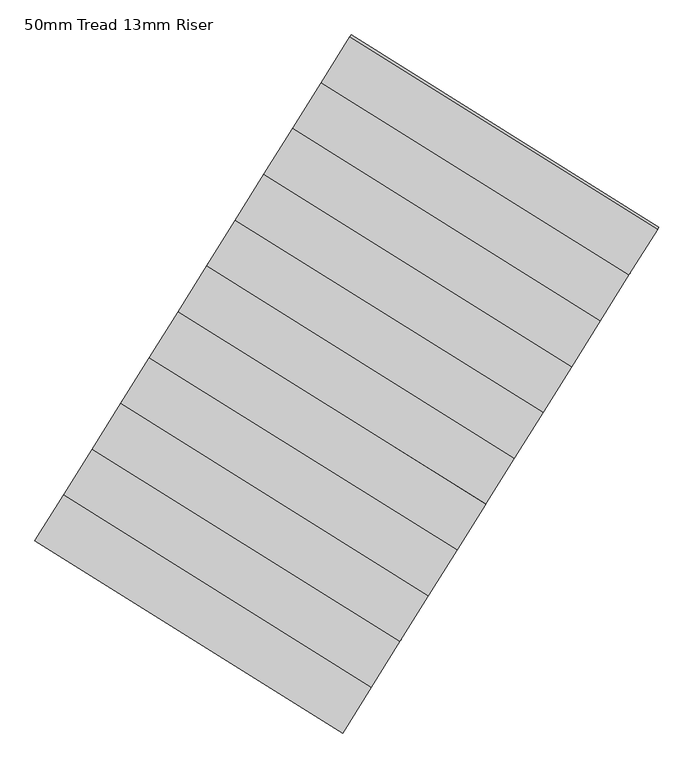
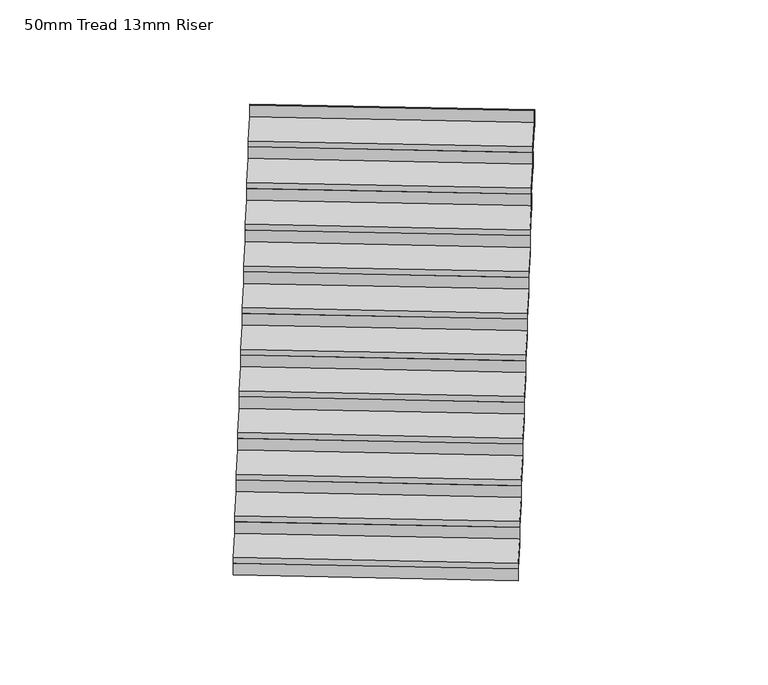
"""IFC4 building model written with IfcOpenShell, lengths in millimetres: stair flight geometry, 50mm Tread 13mm Riser."""

import ifcopenshell
import ifcopenshell.guid

model = None  # the IFC model being written
_history = None  # IfcOwnerHistory: only IFC2X3 demands one
_inside = {}  # id of a spatial element -> (the spatial element, [elements in it])
_under = {}  # id of a project, library or spatial element -> (it, [spatial elements below it])
_declared = {}  # id of a project -> (the project, [libraries it declares])
_typed = {}  # id of a type object -> (the type object, [elements of that type])
_made_of = {}  # id of a material, layer set ... -> (it, [elements and type objects made of it])


def new_model(schema):
    """Start an empty IFC model of exactly this schema.

    Asked for "IFC4X3", IfcOpenShell would pick the latest addendum, in which some entities
    have other attributes; the version numbers below select the first issue.
    IFC2X3 requires an IfcOwnerHistory on every rooted entity: one is made here for all.
    """
    global model, _history
    if schema == "IFC4X3":
        model = ifcopenshell.file(schema_version=(4, 3, 0, 0))
    else:
        model = ifcopenshell.file(schema=schema)
    _inside.clear()
    _under.clear()
    _declared.clear()
    _typed.clear()
    _made_of.clear()
    _history = None
    if model.schema == "IFC2X3":
        org = make("IfcOrganization", Name="unknown")
        user = make(
            "IfcPersonAndOrganization",
            ThePerson=make("IfcPerson", FamilyName="unknown"),
            TheOrganization=org,
        )
        app = make(
            "IfcApplication",
            ApplicationDeveloper=org,
            Version="unknown",
            ApplicationFullName="unknown",
            ApplicationIdentifier="unknown",
        )
        _history = make(
            "IfcOwnerHistory",
            OwningUser=user,
            OwningApplication=app,
            ChangeAction="ADDED",
            CreationDate=0,
        )
    return model


def make(cls, **values):
    """One entity of the class cls with the attributes given. An attribute that is None is left unset."""
    return model.create_entity(
        cls, **{name: value for name, value in values.items() if value is not None}
    )


def rooted(cls, **values):
    """An entity with a GlobalId (a new one), such as an element, a storey or a relation."""
    return make(cls, GlobalId=ifcopenshell.guid.new(), OwnerHistory=_history, **values)


def si_unit(unit_type, name, prefix=None):
    """IfcSIUnit, for example si_unit("LENGTHUNIT", "METRE", prefix="MILLI")."""
    return make("IfcSIUnit", UnitType=unit_type, Prefix=prefix, Name=name)


def assignment(units):
    """IfcUnitAssignment: the units of a project."""
    return None if units is None else make("IfcUnitAssignment", Units=units)


def point(xyz):
    """IfcCartesianPoint."""
    return None if xyz is None else make("IfcCartesianPoint", Coordinates=xyz)


def direction(xyz):
    """IfcDirection."""
    return None if xyz is None else make("IfcDirection", DirectionRatios=xyz)


def frame(location, z_axis=None, x_axis=None):
    """IfcAxis2Placement3D, a coordinate frame: its origin and axes. An axis left out is left unset."""
    return make(
        "IfcAxis2Placement3D",
        Location=point(location),
        Axis=direction(z_axis),
        RefDirection=direction(x_axis),
    )


def origin():
    """The frame at (0, 0, 0) with its axes left unset."""
    return frame((0.0, 0.0, 0.0))


def place(relative_to, where):
    """IfcLocalPlacement: puts the frame where relative to a parent placement (None: the world)."""
    return make(
        "IfcLocalPlacement", PlacementRelTo=relative_to, RelativePlacement=where
    )


def context(
    kind, dimensions, precision=None, world=None, true_north=None, identifier=None
):
    """IfcGeometricRepresentationContext, for example the 3D "Model" context."""
    return make(
        "IfcGeometricRepresentationContext",
        ContextIdentifier=identifier,
        ContextType=kind,
        CoordinateSpaceDimension=dimensions,
        Precision=precision,
        WorldCoordinateSystem=world,
        TrueNorth=true_north,
    )


def project(units=None, contexts=None):
    """IfcProject with its units and contexts."""
    return rooted(
        "IfcProject",
        Name="project",
        RepresentationContexts=contexts,
        UnitsInContext=assignment(units),
    )


def spatial(cls, under=None, at=None, **own):
    """A site, building, storey or space (cls), placed at a placement, below another one or the project."""
    s = rooted(cls, ObjectPlacement=at, **own)
    if under is not None:
        _under.setdefault(under.id(), (under, []))[1].append(s)
    return s


def polyline(points):
    """IfcPolyline through the points."""
    return make("IfcPolyline", Points=[point(p) for p in points])


def outline(outer, holes=None, kind="AREA"):
    """IfcArbitraryClosedProfileDef: a profile drawn as a closed curve; with holes, ...WithVoids."""
    if holes is None:
        return make("IfcArbitraryClosedProfileDef", ProfileType=kind, OuterCurve=outer)
    return make(
        "IfcArbitraryProfileDefWithVoids",
        ProfileType=kind,
        OuterCurve=outer,
        InnerCurves=holes,
    )


def extrude(swept, where, along, depth):
    """IfcExtrudedAreaSolid: the profile swept, set in the frame where, extruded along a direction by depth."""
    return make(
        "IfcExtrudedAreaSolid",
        SweptArea=swept,
        Position=where,
        ExtrudedDirection=direction(along),
        Depth=depth,
    )


def shape(context_of_items, identifier, shape_type, items):
    """IfcShapeRepresentation: the items that make up one representation, for example the "Body"."""
    return make(
        "IfcShapeRepresentation",
        ContextOfItems=context_of_items,
        RepresentationIdentifier=identifier,
        RepresentationType=shape_type,
        Items=items,
    )


def source(mapping_origin, context_of_items, identifier, shape_type, items):
    """IfcRepresentationMap: a shape defined once, which mapped items show again and again."""
    return make(
        "IfcRepresentationMap",
        MappingOrigin=mapping_origin,
        MappedRepresentation=shape(context_of_items, identifier, shape_type, items),
    )


def transform(
    local_origin,
    x_axis=None,
    y_axis=None,
    z_axis=None,
    scale=None,
    scale2=None,
    scale3=None,
    uniform=True,
):
    """IfcCartesianTransformationOperator3D, or its non-uniform kind. x_axis, y_axis, z_axis: its Axis1, 2, 3."""
    if uniform:
        return make(
            "IfcCartesianTransformationOperator3D",
            Axis1=direction(x_axis),
            Axis2=direction(y_axis),
            LocalOrigin=point(local_origin),
            Scale=scale,
            Axis3=direction(z_axis),
        )
    return make(
        "IfcCartesianTransformationOperator3DnonUniform",
        Axis1=direction(x_axis),
        Axis2=direction(y_axis),
        LocalOrigin=point(local_origin),
        Scale=scale,
        Axis3=direction(z_axis),
        Scale2=scale2,
        Scale3=scale3,
    )


def mapped(mapping_source, mapping_target):
    """IfcMappedItem: shows the shape of a source again, moved by a transform."""
    return make(
        "IfcMappedItem", MappingSource=mapping_source, MappingTarget=mapping_target
    )


def made_of(thing, what):
    """Note that an element or type object is made of a material, layer set ...; save() writes the relation."""
    if what is not None:
        _made_of.setdefault(what.id(), (what, []))[1].append(thing)
    return thing


def element(
    cls,
    number,
    at=None,
    inside=None,
    cuts=None,
    type_object=None,
    material=None,
    context=None,
    identifier="Body",
    shape_type=None,
    held_by="IfcProductDefinitionShape",
    body=None,
    shapes=None,
    **own,
):
    """One element of the class cls, such as IfcWall. Its Tag is "e" and its number.

    at: its placement. inside: the storey or other place that contains it. cuts: it is an
    opening in that element (IfcRelVoidsElement). A single representation is given by context,
    identifier, shape_type and body (its items); several are given by shapes. held_by: the class
    of the entity that holds the representations. save() writes the other relations.
    """
    e = rooted(cls, Tag="e%d" % number, ObjectPlacement=at, **own)
    if body is not None:
        shapes = [shape(context, identifier, shape_type, body)]
    if shapes is not None:
        e.Representation = make(held_by, Representations=shapes)
    if inside is not None:
        _inside.setdefault(inside.id(), (inside, []))[1].append(e)
    if cuts is not None:
        rooted(
            "IfcRelVoidsElement", RelatingBuildingElement=cuts, RelatedOpeningElement=e
        )
    if type_object is not None:
        _typed.setdefault(type_object.id(), (type_object, []))[1].append(e)
    return made_of(e, material)


def aggregate(whole, parts):
    """IfcRelAggregates: a whole, such as a stair, and the parts it consists of."""
    return rooted("IfcRelAggregates", RelatingObject=whole, RelatedObjects=parts)


def save(model, path):
    """Write the relations noted so far, then the file.

    IfcRelAggregates (storeys below a building ...), IfcRelContainedInSpatialStructure (elements
    in a storey), IfcRelDefinesByType, IfcRelAssociatesMaterial and IfcRelDeclares: one each for
    every whole, place, type object, material and project.
    """
    for whole, parts in _under.values():
        aggregate(whole, parts)
    for where, things in _inside.values():
        rooted(
            "IfcRelContainedInSpatialStructure",
            RelatedElements=things,
            RelatingStructure=where,
        )
    for kind, things in _typed.values():
        rooted("IfcRelDefinesByType", RelatedObjects=things, RelatingType=kind)
    for what, things in _made_of.values():
        rooted("IfcRelAssociatesMaterial", RelatedObjects=things, RelatingMaterial=what)
    for by, libraries in _declared.values():
        rooted("IfcRelDeclares", RelatingContext=by, RelatedDefinitions=libraries)
    model.write(path)


def stair_flight_50mm_tread_13mm_riser_935e73ca(model_context):
    return source(origin(), model_context, "Body", "SweptSolid", [
        extrude(outline(polyline([(45890.1107141, -53305.0621823), (45883.4867233, -53315.6627835), (44174.7077702, -52247.8991865), (44181.331761, -52237.2985853), (45890.1107141, -53305.0621823)])), frame((0.0, 0.0, 3600.0), z_axis=(0.0, 0.0, 1.0), x_axis=(1.0, 0.0, 0.0)), (0.0, 0.0, 1.0), 100.0),
        extrude(outline(polyline([(44333.6835494, -51993.4847577), (46042.4625025, -53061.2483547), (45883.4867233, -53315.6627835), (44174.7077702, -52247.8991865), (44333.6835494, -51993.4847577)])), frame((0.0, 0.0, 3700.0), z_axis=(0.0, 0.0, 1.0), x_axis=(1.0, 0.0, 0.0)), (0.0, 0.0, 1.0), 50.0),
        extrude(outline(polyline([(46049.0864934, -53050.6477535), (46042.4625025, -53061.2483547), (44333.6835494, -51993.4847577), (44340.3075402, -51982.8841565), (46049.0864934, -53050.6477535)])), frame((0.0, 0.0, 3700.0), z_axis=(0.0, 0.0, 1.0), x_axis=(1.0, 0.0, 0.0)), (0.0, 0.0, 1.0), 150.0),
        extrude(outline(polyline([(44492.6593287, -51739.0703288), (46201.4382818, -52806.8339258), (46042.4625025, -53061.2483547), (44333.6835494, -51993.4847577), (44492.6593287, -51739.0703288)])), frame((0.0, 0.0, 3850.0), z_axis=(0.0, 0.0, 1.0), x_axis=(1.0, 0.0, 0.0)), (0.0, 0.0, 1.0), 50.0),
        extrude(outline(polyline([(46208.0622726, -52796.2333246), (46201.4382818, -52806.8339258), (44492.6593287, -51739.0703288), (44499.2833195, -51728.4697276), (46208.0622726, -52796.2333246)])), frame((0.0, 0.0, 3850.0), z_axis=(0.0, 0.0, 1.0), x_axis=(1.0, 0.0, 0.0)), (0.0, 0.0, 1.0), 150.0),
        extrude(outline(polyline([(44651.635108, -51484.6559), (46360.4140611, -52552.419497), (46201.4382818, -52806.8339258), (44492.6593287, -51739.0703288), (44651.635108, -51484.6559)])), frame((0.0, 0.0, 4000.0), z_axis=(0.0, 0.0, 1.0), x_axis=(1.0, 0.0, 0.0)), (0.0, 0.0, 1.0), 50.0),
        extrude(outline(polyline([(46367.0380519, -52541.8188958), (46360.4140611, -52552.419497), (44651.635108, -51484.6559), (44658.2590988, -51474.0552988), (46367.0380519, -52541.8188958)])), frame((0.0, 0.0, 4000.0), z_axis=(0.0, 0.0, 1.0), x_axis=(1.0, 0.0, 0.0)), (0.0, 0.0, 1.0), 150.0),
        extrude(outline(polyline([(44810.6108873, -51230.2414711), (46519.3898404, -52298.0050681), (46360.4140611, -52552.419497), (44651.635108, -51484.6559), (44810.6108873, -51230.2414711)])), frame((0.0, 0.0, 4150.0), z_axis=(0.0, 0.0, 1.0), x_axis=(1.0, 0.0, 0.0)), (0.0, 0.0, 1.0), 50.0),
        extrude(outline(polyline([(46526.0138312, -52287.4044669), (46519.3898404, -52298.0050681), (44810.6108873, -51230.2414711), (44817.2348781, -51219.6408699), (46526.0138312, -52287.4044669)])), frame((0.0, 0.0, 4150.0), z_axis=(0.0, 0.0, 1.0), x_axis=(1.0, 0.0, 0.0)), (0.0, 0.0, 1.0), 150.0),
        extrude(outline(polyline([(44969.5866665, -50975.8270423), (46678.3656196, -52043.5906393), (46519.3898404, -52298.0050681), (44810.6108873, -51230.2414711), (44969.5866665, -50975.8270423)])), frame((0.0, 0.0, 4300.0), z_axis=(0.0, 0.0, 1.0), x_axis=(1.0, 0.0, 0.0)), (0.0, 0.0, 1.0), 50.0),
        extrude(outline(polyline([(46684.9896104, -52032.9900381), (46678.3656196, -52043.5906393), (44969.5866665, -50975.8270423), (44976.2106573, -50965.2264411), (46684.9896104, -52032.9900381)])), frame((0.0, 0.0, 4300.0), z_axis=(0.0, 0.0, 1.0), x_axis=(1.0, 0.0, 0.0)), (0.0, 0.0, 1.0), 150.0),
        extrude(outline(polyline([(45128.5624458, -50721.4126134), (46837.3413989, -51789.1762104), (46678.3656196, -52043.5906393), (44969.5866665, -50975.8270423), (45128.5624458, -50721.4126134)])), frame((0.0, 0.0, 4450.0), z_axis=(0.0, 0.0, 1.0), x_axis=(1.0, 0.0, 0.0)), (0.0, 0.0, 1.0), 50.0),
        extrude(outline(polyline([(46843.9653897, -51778.5756092), (46837.3413989, -51789.1762104), (45128.5624458, -50721.4126134), (45135.1864366, -50710.8120122), (46843.9653897, -51778.5756092)])), frame((0.0, 0.0, 4450.0), z_axis=(0.0, 0.0, 1.0), x_axis=(1.0, 0.0, 0.0)), (0.0, 0.0, 1.0), 150.0),
        extrude(outline(polyline([(45287.5382251, -50466.9981846), (46996.3171782, -51534.7617816), (46837.3413989, -51789.1762104), (45128.5624458, -50721.4126134), (45287.5382251, -50466.9981846)])), frame((0.0, 0.0, 4600.0), z_axis=(0.0, 0.0, 1.0), x_axis=(1.0, 0.0, 0.0)), (0.0, 0.0, 1.0), 50.0),
        extrude(outline(polyline([(47002.941169, -51524.1611804), (46996.3171782, -51534.7617816), (45287.5382251, -50466.9981846), (45294.1622159, -50456.3975834), (47002.941169, -51524.1611804)])), frame((0.0, 0.0, 4600.0), z_axis=(0.0, 0.0, 1.0), x_axis=(1.0, 0.0, 0.0)), (0.0, 0.0, 1.0), 150.0),
        extrude(outline(polyline([(45446.5140043, -50212.5837558), (47155.2929574, -51280.3473527), (46996.3171782, -51534.7617816), (45287.5382251, -50466.9981846), (45446.5140043, -50212.5837558)])), frame((0.0, 0.0, 4750.0), z_axis=(0.0, 0.0, 1.0), x_axis=(1.0, 0.0, 0.0)), (0.0, 0.0, 1.0), 50.0),
        extrude(outline(polyline([(47161.9169482, -51269.7467515), (47155.2929574, -51280.3473527), (45446.5140043, -50212.5837558), (45453.1379951, -50201.9831545), (47161.9169482, -51269.7467515)])), frame((0.0, 0.0, 4750.0), z_axis=(0.0, 0.0, 1.0), x_axis=(1.0, 0.0, 0.0)), (0.0, 0.0, 1.0), 150.0),
        extrude(outline(polyline([(45605.4897836, -49958.1693269), (47314.2687367, -51025.9329239), (47155.2929574, -51280.3473527), (45446.5140043, -50212.5837558), (45605.4897836, -49958.1693269)])), frame((0.0, 0.0, 4900.0), z_axis=(0.0, 0.0, 1.0), x_axis=(1.0, 0.0, 0.0)), (0.0, 0.0, 1.0), 50.0),
        extrude(outline(polyline([(47320.8927275, -51015.3323227), (47314.2687367, -51025.9329239), (45605.4897836, -49958.1693269), (45612.1137744, -49947.5687257), (47320.8927275, -51015.3323227)])), frame((0.0, 0.0, 4900.0), z_axis=(0.0, 0.0, 1.0), x_axis=(1.0, 0.0, 0.0)), (0.0, 0.0, 1.0), 150.0),
        extrude(outline(polyline([(45764.4655629, -49703.7548981), (47473.244516, -50771.518495), (47314.2687367, -51025.9329239), (45605.4897836, -49958.1693269), (45764.4655629, -49703.7548981)])), frame((0.0, 0.0, 5050.0), z_axis=(0.0, 0.0, 1.0), x_axis=(1.0, 0.0, 0.0)), (0.0, 0.0, 1.0), 50.0),
        extrude(outline(polyline([(47479.8685068, -50760.9178938), (47473.244516, -50771.518495), (45764.4655629, -49703.7548981), (45771.0895537, -49693.1542969), (47479.8685068, -50760.9178938)])), frame((0.0, 0.0, 5050.0), z_axis=(0.0, 0.0, 1.0), x_axis=(1.0, 0.0, 0.0)), (0.0, 0.0, 1.0), 150.0),
        extrude(outline(polyline([(47638.8442861, -50506.503465), (47632.2202952, -50517.1040662), (45923.4413421, -49449.3404692), (45930.0653329, -49438.739868), (47638.8442861, -50506.503465)])), frame((0.0, 0.0, 5200.0), z_axis=(0.0, 0.0, 1.0), x_axis=(1.0, 0.0, 0.0)), (0.0, 0.0, 1.0), 150.0),
        extrude(outline(polyline([(45923.4413421, -49449.3404692), (47632.2202952, -50517.1040662), (47473.244516, -50771.518495), (45764.4655629, -49703.7548981), (45923.4413421, -49449.3404692)])), frame((0.0, 0.0, 5200.0), z_axis=(0.0, 0.0, 1.0), x_axis=(1.0, 0.0, 0.0)), (0.0, 0.0, 1.0), 50.0),
    ])


if __name__ == "__main__":
    model = new_model("IFC4")
    model_context = context("Model", 3, world=origin())
    ifc_project = project(units=[si_unit("LENGTHUNIT", "METRE", prefix="MILLI")], contexts=[model_context])
    site = spatial("IfcSite", under=ifc_project)
    building = spatial("IfcBuilding", under=site)
    placement = place(None, origin())
    stair_flight_50mm_tread_13mm_riser_shape = stair_flight_50mm_tread_13mm_riser_935e73ca(model_context)
    element("IfcStairFlight", 1, ObjectType="50mm Tread 13mm Riser", at=placement, inside=building, context=model_context, shape_type="MappedRepresentation", body=[
        mapped(stair_flight_50mm_tread_13mm_riser_shape, transform((0.0, 0.0, 0.0), x_axis=(1.0, 0.0, 0.0), y_axis=(0.0, 1.0, 0.0), z_axis=(0.0, 0.0, 1.0))),
    ])
    save(model, "model.ifc")
